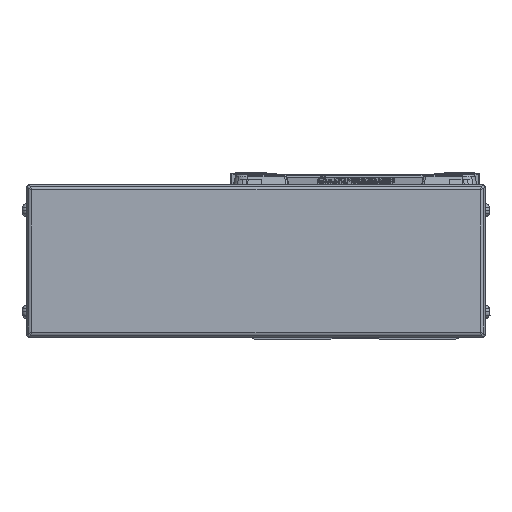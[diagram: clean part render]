
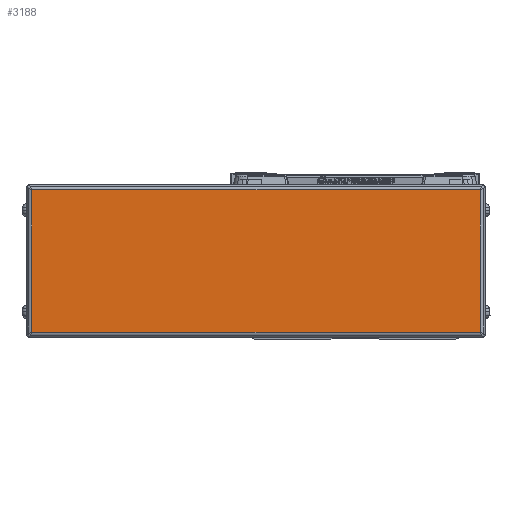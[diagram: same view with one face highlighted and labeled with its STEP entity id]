
A CAD part, left-side view. The second image highlights one B-rep face of the part: STEP entity #3188.
In plain terms, the highlighted planar face has unit normal (-1, 0, 0).
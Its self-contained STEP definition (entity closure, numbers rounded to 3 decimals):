
#3188=ADVANCED_FACE('',(#7803),#7804,.F.);
#7803=FACE_OUTER_BOUND('',#14414,.T.);
#7804=PLANE('',#14415);
#14414=EDGE_LOOP('',(#23744,#23745,#23746,#23747));
#14415=AXIS2_PLACEMENT_3D('',#23748,#23749,#23750);
#23744=ORIENTED_EDGE('',*,*,#38899,.T.);
#23745=ORIENTED_EDGE('',*,*,#40257,.T.);
#23746=ORIENTED_EDGE('',*,*,#40258,.T.);
#23747=ORIENTED_EDGE('',*,*,#40259,.T.);
#23748=CARTESIAN_POINT('',(-616.,39.,0.));
#23749=DIRECTION('',(1.0,0.,0.));
#23750=DIRECTION('',(0.,0.,1.0));
#38899=EDGE_CURVE('',#46741,#46739,#46742,.T.);
#40257=EDGE_CURVE('',#46739,#48995,#48996,.T.);
#40258=EDGE_CURVE('',#48995,#47570,#48997,.T.);
#40259=EDGE_CURVE('',#47570,#46741,#48998,.T.);
#46739=VERTEX_POINT('',#57800);
#46741=VERTEX_POINT('',#57802);
#46742=LINE('',#57803,#57804);
#47570=VERTEX_POINT('',#58927);
#48995=VERTEX_POINT('',#60910);
#48996=LINE('',#60911,#60912);
#48997=LINE('',#60913,#60914);
#48998=LINE('',#60915,#60916);
#57800=CARTESIAN_POINT('',(-616.,127.2,28.));
#57802=CARTESIAN_POINT('',(-616.,-49.2,28.));
#57803=CARTESIAN_POINT('',(-616.,39.,28.));
#57804=VECTOR('',#71328,10.0);
#58927=CARTESIAN_POINT('',(-616.,-49.2,-28.));
#60910=CARTESIAN_POINT('',(-616.0,127.2,-28.));
#60911=CARTESIAN_POINT('',(-616.0,127.2,0.));
#60912=VECTOR('',#73257,10.0);
#60913=CARTESIAN_POINT('',(-616.,39.,-28.));
#60914=VECTOR('',#73258,10.0);
#60915=CARTESIAN_POINT('',(-616.,-49.2,0.));
#60916=VECTOR('',#73259,10.0);
#71328=DIRECTION('',(0.,1.0,0.));
#73257=DIRECTION('',(0.,0.,-1.0));
#73258=DIRECTION('',(0.,-1.0,0.));
#73259=DIRECTION('',(0.,0.,1.0));
